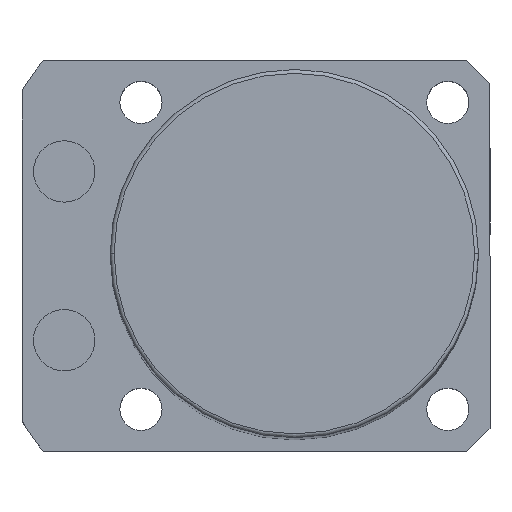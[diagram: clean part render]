
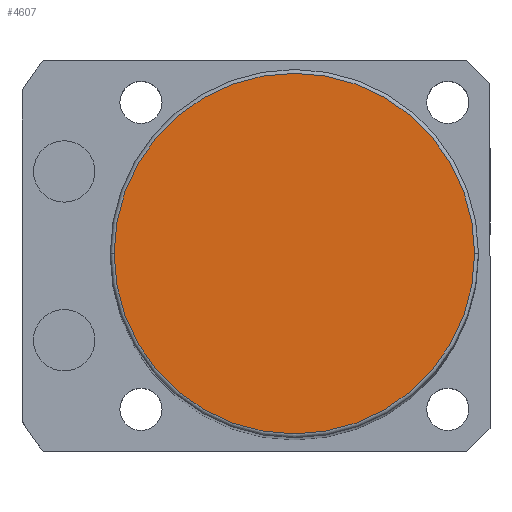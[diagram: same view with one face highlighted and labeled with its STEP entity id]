
A CAD part, top view. The second image highlights one B-rep face of the part: STEP entity #4607.
In plain terms, the highlighted planar face has unit normal (0, 0, 1).
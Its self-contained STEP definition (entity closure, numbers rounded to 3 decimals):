
#129 = DIRECTION ( 'NONE',  ( 0., 0., 1. ) ) ;
#383 = EDGE_CURVE ( 'NONE', #390, #1828, #4361, .T. ) ;
#390 = VERTEX_POINT ( 'NONE', #3903 ) ;
#518 = CARTESIAN_POINT ( 'NONE',  ( 23.5, 0., 181. ) ) ;
#567 = AXIS2_PLACEMENT_3D ( 'NONE', #2114, #4732, #3187 ) ;
#759 = AXIS2_PLACEMENT_3D ( 'NONE', #3609, #129, #1586 ) ;
#917 = FACE_OUTER_BOUND ( 'NONE', #4266, .T. ) ;
#1181 = EDGE_CURVE ( 'NONE', #1828, #390, #5128, .T. ) ;
#1586 = DIRECTION ( 'NONE',  ( 1., 0., 0. ) ) ;
#1828 = VERTEX_POINT ( 'NONE', #518 ) ;
#2017 = ORIENTED_EDGE ( 'NONE', *, *, #1181, .T. ) ;
#2114 = CARTESIAN_POINT ( 'NONE',  ( 0., 0., 181. ) ) ;
#3021 = CARTESIAN_POINT ( 'NONE',  ( 0., 0., 181. ) ) ;
#3187 = DIRECTION ( 'NONE',  ( 1., 0., 0. ) ) ;
#3501 = DIRECTION ( 'NONE',  ( 0., 0., 1. ) ) ;
#3609 = CARTESIAN_POINT ( 'NONE',  ( 0., 0., 181. ) ) ;
#3903 = CARTESIAN_POINT ( 'NONE',  ( -23.5, 0., 181. ) ) ;
#4201 = AXIS2_PLACEMENT_3D ( 'NONE', #3021, #3501, #5496 ) ;
#4266 = EDGE_LOOP ( 'NONE', ( #2017, #5619 ) ) ;
#4361 = CIRCLE ( 'NONE', #759, 23.5 ) ;
#4607 = ADVANCED_FACE ( 'NONE', ( #917 ), #5526, .T. ) ;
#4732 = DIRECTION ( 'NONE',  ( 0., 0., 1. ) ) ;
#5128 = CIRCLE ( 'NONE', #567, 23.5 ) ;
#5496 = DIRECTION ( 'NONE',  ( 1., 0., 0. ) ) ;
#5526 = PLANE ( 'NONE',  #4201 ) ;
#5619 = ORIENTED_EDGE ( 'NONE', *, *, #383, .T. ) ;
